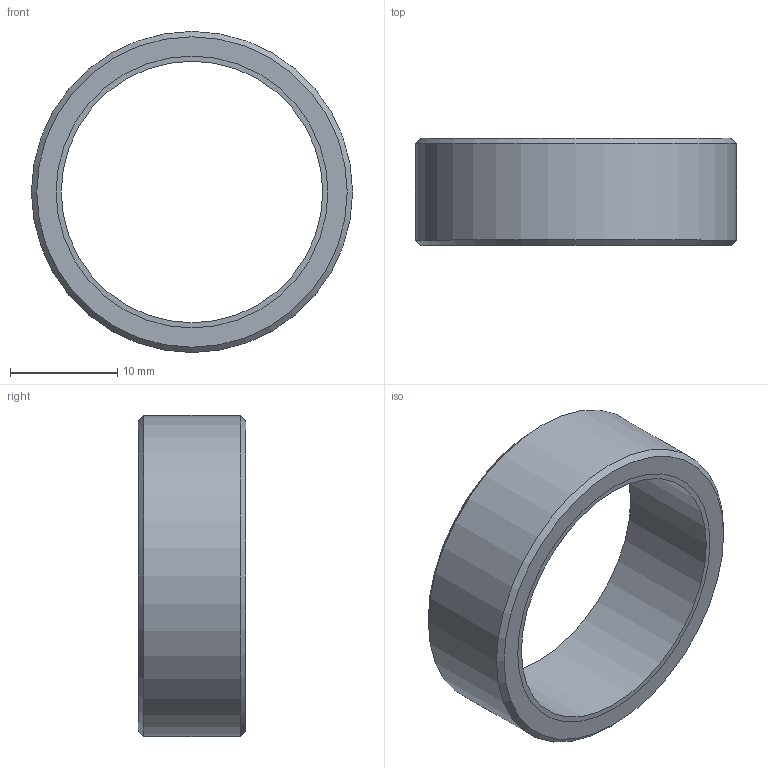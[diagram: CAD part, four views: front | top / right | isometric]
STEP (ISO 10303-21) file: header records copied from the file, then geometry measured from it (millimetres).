
FILE_DESCRIPTION(('Bauteilbeschreibung','HiCAD-Model','HiCAD-STEP-TRANSLATION','Bauteilbeschreibung'),'2;1');
FILE_NAME('G:/PROJ526_CAD-INTERNET-DOKU/KAPITEL_L-MIKROBANK/STEP/038851_STEP.STP','2003-05-13T10:16:14+00:00',('Konstrukteur'),('Konstrukteur Firma GmbH'),'HiCAD2 V1102 STEP 20.9.2001','HiCAD2 V1102','confidential');
FILE_SCHEMA(('AUTOMOTIVE_DESIGN { 1 2 10303 214 0 1 1 1 }'));
Length unit declared in the file: millimetre
Products named in the file (3): A0004113; A00041130; GEWINDEHUELSE
Assembly tree (2 placements, depth 2):
  A0004113
    A00041130
    GEWINDEHUELSE
Bounding box: 30 x 10 x 30 mm (x, y, z)
Volume: 2359.4 mm3; surface area: 3726.4 mm2
Topology: 2 solids, 2 shells, 10 faces, 18 edges, 12 vertices
Faces by surface type: cylinder 4, plane 4, cone 2
Full cylindrical faces by diameter (mm): 24.426 x1, 25.4 x2, 30 x1
Entity records: 418 total; most frequent: DIRECTION 48, CARTESIAN_POINT 34, AXIS2_PLACEMENT_3D 24, COLOUR_RGB 22, PRESENTATION_STYLE_ASSIGNMENT 22, EDGE_LOOP 20, ORIENTED_EDGE 20, OVER_RIDING_STYLED_ITEM 20
